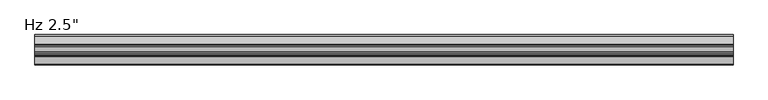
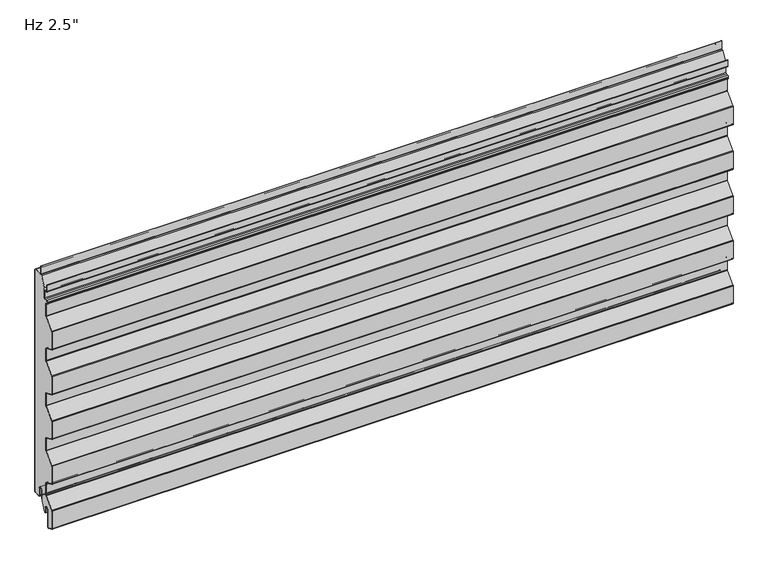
"""IFC4 building model written with IfcOpenShell, lengths in millimetres: plate geometry."""

import ifcopenshell
import ifcopenshell.guid

model = None  # the IFC model being written
_history = None  # IfcOwnerHistory: only IFC2X3 demands one
_inside = {}  # id of a spatial element -> (the spatial element, [elements in it])
_under = {}  # id of a project, library or spatial element -> (it, [spatial elements below it])
_declared = {}  # id of a project -> (the project, [libraries it declares])
_typed = {}  # id of a type object -> (the type object, [elements of that type])
_made_of = {}  # id of a material, layer set ... -> (it, [elements and type objects made of it])


def new_model(schema):
    """Start an empty IFC model of exactly this schema.

    Asked for "IFC4X3", IfcOpenShell would pick the latest addendum, in which some entities
    have other attributes; the version numbers below select the first issue.
    IFC2X3 requires an IfcOwnerHistory on every rooted entity: one is made here for all.
    """
    global model, _history
    if schema == "IFC4X3":
        model = ifcopenshell.file(schema_version=(4, 3, 0, 0))
    else:
        model = ifcopenshell.file(schema=schema)
    _inside.clear()
    _under.clear()
    _declared.clear()
    _typed.clear()
    _made_of.clear()
    _history = None
    if model.schema == "IFC2X3":
        org = make("IfcOrganization", Name="unknown")
        user = make(
            "IfcPersonAndOrganization",
            ThePerson=make("IfcPerson", FamilyName="unknown"),
            TheOrganization=org,
        )
        app = make(
            "IfcApplication",
            ApplicationDeveloper=org,
            Version="unknown",
            ApplicationFullName="unknown",
            ApplicationIdentifier="unknown",
        )
        _history = make(
            "IfcOwnerHistory",
            OwningUser=user,
            OwningApplication=app,
            ChangeAction="ADDED",
            CreationDate=0,
        )
    return model


def make(cls, **values):
    """One entity of the class cls with the attributes given. An attribute that is None is left unset."""
    return model.create_entity(
        cls, **{name: value for name, value in values.items() if value is not None}
    )


def rooted(cls, **values):
    """An entity with a GlobalId (a new one), such as an element, a storey or a relation."""
    return make(cls, GlobalId=ifcopenshell.guid.new(), OwnerHistory=_history, **values)


def si_unit(unit_type, name, prefix=None):
    """IfcSIUnit, for example si_unit("LENGTHUNIT", "METRE", prefix="MILLI")."""
    return make("IfcSIUnit", UnitType=unit_type, Prefix=prefix, Name=name)


def assignment(units):
    """IfcUnitAssignment: the units of a project."""
    return None if units is None else make("IfcUnitAssignment", Units=units)


def point(xyz):
    """IfcCartesianPoint."""
    return None if xyz is None else make("IfcCartesianPoint", Coordinates=xyz)


def direction(xyz):
    """IfcDirection."""
    return None if xyz is None else make("IfcDirection", DirectionRatios=xyz)


def frame(location, z_axis=None, x_axis=None):
    """IfcAxis2Placement3D, a coordinate frame: its origin and axes. An axis left out is left unset."""
    return make(
        "IfcAxis2Placement3D",
        Location=point(location),
        Axis=direction(z_axis),
        RefDirection=direction(x_axis),
    )


def frame_2d(location, x_axis=None):
    """IfcAxis2Placement2D, a coordinate frame in the plane: its origin and x axis."""
    return make(
        "IfcAxis2Placement2D", Location=point(location), RefDirection=direction(x_axis)
    )


def origin():
    """The frame at (0, 0, 0) with its axes left unset."""
    return frame((0.0, 0.0, 0.0))


def place(relative_to, where):
    """IfcLocalPlacement: puts the frame where relative to a parent placement (None: the world)."""
    return make(
        "IfcLocalPlacement", PlacementRelTo=relative_to, RelativePlacement=where
    )


def context(
    kind, dimensions, precision=None, world=None, true_north=None, identifier=None
):
    """IfcGeometricRepresentationContext, for example the 3D "Model" context."""
    return make(
        "IfcGeometricRepresentationContext",
        ContextIdentifier=identifier,
        ContextType=kind,
        CoordinateSpaceDimension=dimensions,
        Precision=precision,
        WorldCoordinateSystem=world,
        TrueNorth=true_north,
    )


def project(units=None, contexts=None):
    """IfcProject with its units and contexts."""
    return rooted(
        "IfcProject",
        Name="project",
        RepresentationContexts=contexts,
        UnitsInContext=assignment(units),
    )


def spatial(cls, under=None, at=None, **own):
    """A site, building, storey or space (cls), placed at a placement, below another one or the project."""
    s = rooted(cls, ObjectPlacement=at, **own)
    if under is not None:
        _under.setdefault(under.id(), (under, []))[1].append(s)
    return s


def polyline(points):
    """IfcPolyline through the points."""
    return make("IfcPolyline", Points=[point(p) for p in points])


def circle_curve(where, radius):
    """IfcCircle in the frame where."""
    return make("IfcCircle", Position=where, Radius=radius)


def trimmed(basis, trim1, trim2, sense, master):
    """IfcTrimmedCurve: the piece of a basis curve between two trims."""
    return make(
        "IfcTrimmedCurve",
        BasisCurve=basis,
        Trim1=trim1,
        Trim2=trim2,
        SenseAgreement=sense,
        MasterRepresentation=master,
    )


def segment(curve, same_sense, transition):
    """IfcCompositeCurveSegment."""
    return make(
        "IfcCompositeCurveSegment",
        Transition=transition,
        SameSense=same_sense,
        ParentCurve=curve,
    )


def composite_curve(segments, self_intersect=None):
    """IfcCompositeCurve: segments joined end to end."""
    return make("IfcCompositeCurve", Segments=segments, SelfIntersect=self_intersect)


def outline(outer, holes=None, kind="AREA"):
    """IfcArbitraryClosedProfileDef: a profile drawn as a closed curve; with holes, ...WithVoids."""
    if holes is None:
        return make("IfcArbitraryClosedProfileDef", ProfileType=kind, OuterCurve=outer)
    return make(
        "IfcArbitraryProfileDefWithVoids",
        ProfileType=kind,
        OuterCurve=outer,
        InnerCurves=holes,
    )


def extrude(swept, where, along, depth):
    """IfcExtrudedAreaSolid: the profile swept, set in the frame where, extruded along a direction by depth."""
    return make(
        "IfcExtrudedAreaSolid",
        SweptArea=swept,
        Position=where,
        ExtrudedDirection=direction(along),
        Depth=depth,
    )


def shape(context_of_items, identifier, shape_type, items):
    """IfcShapeRepresentation: the items that make up one representation, for example the "Body"."""
    return make(
        "IfcShapeRepresentation",
        ContextOfItems=context_of_items,
        RepresentationIdentifier=identifier,
        RepresentationType=shape_type,
        Items=items,
    )


def source(mapping_origin, context_of_items, identifier, shape_type, items):
    """IfcRepresentationMap: a shape defined once, which mapped items show again and again."""
    return make(
        "IfcRepresentationMap",
        MappingOrigin=mapping_origin,
        MappedRepresentation=shape(context_of_items, identifier, shape_type, items),
    )


def transform(
    local_origin,
    x_axis=None,
    y_axis=None,
    z_axis=None,
    scale=None,
    scale2=None,
    scale3=None,
    uniform=True,
):
    """IfcCartesianTransformationOperator3D, or its non-uniform kind. x_axis, y_axis, z_axis: its Axis1, 2, 3."""
    if uniform:
        return make(
            "IfcCartesianTransformationOperator3D",
            Axis1=direction(x_axis),
            Axis2=direction(y_axis),
            LocalOrigin=point(local_origin),
            Scale=scale,
            Axis3=direction(z_axis),
        )
    return make(
        "IfcCartesianTransformationOperator3DnonUniform",
        Axis1=direction(x_axis),
        Axis2=direction(y_axis),
        LocalOrigin=point(local_origin),
        Scale=scale,
        Axis3=direction(z_axis),
        Scale2=scale2,
        Scale3=scale3,
    )


def mapped(mapping_source, mapping_target):
    """IfcMappedItem: shows the shape of a source again, moved by a transform."""
    return make(
        "IfcMappedItem", MappingSource=mapping_source, MappingTarget=mapping_target
    )


def made_of(thing, what):
    """Note that an element or type object is made of a material, layer set ...; save() writes the relation."""
    if what is not None:
        _made_of.setdefault(what.id(), (what, []))[1].append(thing)
    return thing


def element(
    cls,
    number,
    at=None,
    inside=None,
    cuts=None,
    type_object=None,
    material=None,
    context=None,
    identifier="Body",
    shape_type=None,
    held_by="IfcProductDefinitionShape",
    body=None,
    shapes=None,
    **own,
):
    """One element of the class cls, such as IfcWall. Its Tag is "e" and its number.

    at: its placement. inside: the storey or other place that contains it. cuts: it is an
    opening in that element (IfcRelVoidsElement). A single representation is given by context,
    identifier, shape_type and body (its items); several are given by shapes. held_by: the class
    of the entity that holds the representations. save() writes the other relations.
    """
    e = rooted(cls, Tag="e%d" % number, ObjectPlacement=at, **own)
    if body is not None:
        shapes = [shape(context, identifier, shape_type, body)]
    if shapes is not None:
        e.Representation = make(held_by, Representations=shapes)
    if inside is not None:
        _inside.setdefault(inside.id(), (inside, []))[1].append(e)
    if cuts is not None:
        rooted(
            "IfcRelVoidsElement", RelatingBuildingElement=cuts, RelatedOpeningElement=e
        )
    if type_object is not None:
        _typed.setdefault(type_object.id(), (type_object, []))[1].append(e)
    return made_of(e, material)


def aggregate(whole, parts):
    """IfcRelAggregates: a whole, such as a stair, and the parts it consists of."""
    return rooted("IfcRelAggregates", RelatingObject=whole, RelatedObjects=parts)


def save(model, path):
    """Write the relations noted so far, then the file.

    IfcRelAggregates (storeys below a building ...), IfcRelContainedInSpatialStructure (elements
    in a storey), IfcRelDefinesByType, IfcRelAssociatesMaterial and IfcRelDeclares: one each for
    every whole, place, type object, material and project.
    """
    for whole, parts in _under.values():
        aggregate(whole, parts)
    for where, things in _inside.values():
        rooted(
            "IfcRelContainedInSpatialStructure",
            RelatedElements=things,
            RelatingStructure=where,
        )
    for kind, things in _typed.values():
        rooted("IfcRelDefinesByType", RelatedObjects=things, RelatingType=kind)
    for what, things in _made_of.values():
        rooted("IfcRelAssociatesMaterial", RelatedObjects=things, RelatingMaterial=what)
    for by, libraries in _declared.values():
        rooted("IfcRelDeclares", RelatingContext=by, RelatedDefinitions=libraries)
    model.write(path)


def plate_f2263944(model_context):
    return source(origin(), model_context, "Body", "SweptSolid", [
        extrude(outline(composite_curve([segment(polyline([(-26.4011912, 19.05), (-26.4011912, -3.1976612), (-36.533822, -23.01875), (-38.6886912, -23.01875), (-38.6886912, -11.90625)]), True, "CONTINUOUS"), segment(trimmed(circle_curve(frame_2d((-43.6574412, -11.90625)), 4.96875), [point((-38.6886912, -11.90625))], [point((-48.6261912, -11.90625))], True, "CARTESIAN"), True, "CONTINUOUS"), segment(polyline([(-48.6261912, -11.90625), (-48.6261912, -48.8194049)]), True, "CONTINUOUS"), segment(trimmed(circle_curve(frame_2d((-50.0074412, -48.8194049)), 1.38125), [point((-48.6261912, -48.8194049))], [point((-50.5666208, -50.0824052))], False, "CARTESIAN"), True, "CONTINUOUS"), segment(polyline([(-50.5666208, -50.0824052), (-61.6779296, -45.1629946)]), True, "CONTINUOUS"), segment(trimmed(circle_curve(frame_2d((-61.11875, -43.8999943)), 1.38125), [point((-61.6779296, -45.1629946))], [point((-62.5, -43.8999943))], False, "CARTESIAN"), True, "CONTINUOUS"), segment(polyline([(-62.5, -43.8999943), (-62.5, -5.0536946)]), True, "CONTINUOUS"), segment(trimmed(circle_curve(frame_2d((-60.4012, -5.0536946)), 2.0988), [point((-62.5, -5.0536946))], [point((-61.9092077, -3.5939431))], False, "CARTESIAN"), True, "CONTINUOUS"), segment(polyline([(-61.9092077, -3.5939431), (-41.7145567, 17.2682996)]), True, "CONTINUOUS"), segment(trimmed(circle_curve(frame_2d((-43.5737, 19.0679503)), 2.5875), [point((-41.7145567, 17.2682996))], [point((-40.9862, 19.0679503))], True, "CARTESIAN"), True, "CONTINUOUS"), segment(polyline([(-40.9862, 19.0679503), (-40.9862, 45.5917981)]), True, "CONTINUOUS"), segment(trimmed(circle_curve(frame_2d((-43.5737, 45.5917981)), 2.5875), [point((-40.9862, 45.5917981))], [point((-42.5261871, 47.9577806))], True, "CARTESIAN"), True, "CONTINUOUS"), segment(polyline([(-42.5261871, 47.9577806), (-61.6779296, 56.4370054)]), True, "CONTINUOUS"), segment(trimmed(circle_curve(frame_2d((-61.11875, 57.7000057)), 1.38125), [point((-61.6779296, 56.4370054))], [point((-62.5, 57.7000057))], False, "CARTESIAN"), True, "CONTINUOUS"), segment(polyline([(-62.5, 57.7000057), (-62.5, 96.8367131)]), True, "CONTINUOUS"), segment(trimmed(circle_curve(frame_2d((-61.11875, 96.8367131)), 1.38125), [point((-62.5, 96.8367131))], [point((-62.1111912, 97.7973962))], False, "CARTESIAN"), True, "CONTINUOUS"), segment(polyline([(-62.1111912, 97.7973962), (-41.7145567, 118.8682996)]), True, "CONTINUOUS"), segment(trimmed(circle_curve(frame_2d((-43.5737, 120.6679503)), 2.5875), [point((-41.7145567, 118.8682996))], [point((-40.9862, 120.6679503))], True, "CARTESIAN"), True, "CONTINUOUS"), segment(polyline([(-40.9862, 120.6679503), (-40.9862, 147.1917981)]), True, "CONTINUOUS"), segment(trimmed(circle_curve(frame_2d((-43.5737, 147.1917981)), 2.5875), [point((-40.9862, 147.1917981))], [point((-42.5261871, 149.5577806))], True, "CARTESIAN"), True, "CONTINUOUS"), segment(polyline([(-42.5261871, 149.5577806), (-61.6779296, 158.0370054)]), True, "CONTINUOUS"), segment(trimmed(circle_curve(frame_2d((-61.11875, 159.3000057)), 1.38125), [point((-61.6779296, 158.0370054))], [point((-62.5, 159.3000057))], False, "CARTESIAN"), True, "CONTINUOUS"), segment(polyline([(-62.5, 159.3000057), (-62.5, 198.4367131)]), True, "CONTINUOUS"), segment(trimmed(circle_curve(frame_2d((-61.11875, 198.4367131)), 1.38125), [point((-62.5, 198.4367131))], [point((-62.1111912, 199.3973962))], False, "CARTESIAN"), True, "CONTINUOUS"), segment(polyline([(-62.1111912, 199.3973962), (-41.7145567, 220.4682996)]), True, "CONTINUOUS"), segment(trimmed(circle_curve(frame_2d((-43.5737, 222.2679503)), 2.5875), [point((-41.7145567, 220.4682996))], [point((-40.9862, 222.2679503))], True, "CARTESIAN"), True, "CONTINUOUS"), segment(polyline([(-40.9862, 222.2679503), (-40.9862, 248.7917981)]), True, "CONTINUOUS"), segment(trimmed(circle_curve(frame_2d((-43.5737, 248.7917981)), 2.5875), [point((-40.9862, 248.7917981))], [point((-42.5261871, 251.1577806))], True, "CARTESIAN"), True, "CONTINUOUS"), segment(polyline([(-42.5261871, 251.1577806), (-61.6779296, 259.6370054)]), True, "CONTINUOUS"), segment(trimmed(circle_curve(frame_2d((-61.11875, 260.9000057)), 1.38125), [point((-61.6779296, 259.6370054))], [point((-62.5, 260.9000057))], False, "CARTESIAN"), True, "CONTINUOUS"), segment(polyline([(-62.5, 260.9000057), (-62.5, 300.0367131)]), True, "CONTINUOUS"), segment(trimmed(circle_curve(frame_2d((-61.11875, 300.0367131)), 1.38125), [point((-62.5, 300.0367131))], [point((-62.1111912, 300.9973962))], False, "CARTESIAN"), True, "CONTINUOUS"), segment(polyline([(-62.1111912, 300.9973962), (-41.7145567, 322.0682996)]), True, "CONTINUOUS"), segment(trimmed(circle_curve(frame_2d((-43.5737, 323.8679503)), 2.5875), [point((-41.7145567, 322.0682996))], [point((-40.9862, 323.8679503))], True, "CARTESIAN"), True, "CONTINUOUS"), segment(polyline([(-40.9862, 323.8679503), (-40.9862, 350.3917981)]), True, "CONTINUOUS"), segment(trimmed(circle_curve(frame_2d((-43.5737, 350.3917981)), 2.5875), [point((-40.9862, 350.3917981))], [point((-42.5261871, 352.7577806))], True, "CARTESIAN"), True, "CONTINUOUS"), segment(polyline([(-42.5261871, 352.7577806), (-61.6779296, 361.2370054)]), True, "CONTINUOUS"), segment(trimmed(circle_curve(frame_2d((-61.11875, 362.5000057)), 1.38125), [point((-61.6779296, 361.2370054))], [point((-62.5, 362.5000057))], False, "CARTESIAN"), True, "CONTINUOUS"), segment(polyline([(-62.5, 362.5000057), (-62.5, 401.6367131)]), True, "CONTINUOUS"), segment(trimmed(circle_curve(frame_2d((-61.11875, 401.6367131)), 1.38125), [point((-62.5, 401.6367131))], [point((-62.1111912, 402.5973962))], False, "CARTESIAN"), True, "CONTINUOUS"), segment(polyline([(-62.1111912, 402.5973962), (-41.7145567, 423.6682996)]), True, "CONTINUOUS"), segment(trimmed(circle_curve(frame_2d((-43.5737, 425.4679503)), 2.5875), [point((-41.7145567, 423.6682996))], [point((-40.9862, 425.4679503))], True, "CARTESIAN"), True, "CONTINUOUS"), segment(polyline([(-40.9862, 425.4679503), (-40.9862, 451.9917981)]), True, "CONTINUOUS"), segment(trimmed(circle_curve(frame_2d((-43.5737, 451.9917981)), 2.5875), [point((-40.9862, 451.9917981))], [point((-42.5261871, 454.3577806))], True, "CARTESIAN"), True, "CONTINUOUS"), segment(polyline([(-42.5261871, 454.3577806), (-44.2166208, 455.1062016)]), True, "CONTINUOUS"), segment(trimmed(circle_curve(frame_2d((-43.6574412, 456.3692019)), 1.38125), [point((-44.2166208, 455.1062016))], [point((-45.0386912, 456.3692019))], False, "CARTESIAN"), True, "CONTINUOUS"), segment(polyline([(-45.0386912, 456.3692019), (-45.0386912, 458.6967085)]), True, "CONTINUOUS"), segment(trimmed(circle_curve(frame_2d((-43.6574412, 458.6967085)), 1.38125), [point((-45.0386912, 458.6967085))], [point((-43.7297302, 460.0760655))], False, "CARTESIAN"), True, "CONTINUOUS"), segment(polyline([(-43.7297302, 460.0760655), (-37.9657719, 460.3781418)]), True, "CONTINUOUS"), segment(trimmed(circle_curve(frame_2d((-38.1011912, 462.9620957)), 2.5875), [point((-37.9657719, 460.3781418))], [point((-35.5136912, 462.9620957))], True, "CARTESIAN"), True, "CONTINUOUS"), segment(polyline([(-35.5136912, 462.9620957), (-35.5136912, 485.3892934), (-24.8719682, 506.20625), (-2.3824412, 506.20625)]), True, "CONTINUOUS"), segment(trimmed(circle_curve(frame_2d((-2.3824412, 504.825)), 1.38125), [point((-2.3824412, 506.20625))], [point((-1.0011912, 504.825))], False, "CARTESIAN"), True, "CONTINUOUS"), segment(polyline([(-1.0011912, 504.825), (-1.0011912, 3.175)]), True, "CONTINUOUS"), segment(trimmed(circle_curve(frame_2d((-2.3824412, 3.175)), 1.38125), [point((-1.0011912, 3.175))], [point((-2.3824412, 1.79375))], False, "CARTESIAN"), True, "CONTINUOUS"), segment(polyline([(-2.3824412, 1.79375), (-15.0824412, 1.79375)]), True, "CONTINUOUS"), segment(trimmed(circle_curve(frame_2d((-15.0824412, 3.175)), 1.38125), [point((-15.0824412, 1.79375))], [point((-16.4636912, 3.175))], False, "CARTESIAN"), True, "CONTINUOUS"), segment(polyline([(-16.4636912, 3.175), (-16.4636912, 19.05)]), True, "CONTINUOUS"), segment(trimmed(circle_curve(frame_2d((-21.4324412, 19.05)), 4.96875), [point((-16.4636912, 19.05))], [point((-26.4011912, 19.05))], True, "CARTESIAN"), True, "CONTINUOUS")], self_intersect=False)), frame((-730.0, 0.0, 0.0), z_axis=(1.0, 0.0, 0.0), x_axis=(0.0, 1.0, 0.0)), (0.0, 0.0, 1.0), 1460.0),
        extrude(outline(composite_curve([segment(polyline([(-25.4, 0.79375), (-26.4, 0.79375), (-26.4, 19.05)]), True, "CONTINUOUS"), segment(trimmed(circle_curve(frame_2d((-21.43125, 19.05)), 4.96875), [point((-26.4, 19.05))], [point((-16.4625, 19.05))], False, "CARTESIAN"), True, "CONTINUOUS"), segment(polyline([(-16.4625, 19.05), (-16.4625, 3.175)]), True, "CONTINUOUS"), segment(trimmed(circle_curve(frame_2d((-15.08125, 3.175)), 1.38125), [point((-16.4625, 3.175))], [point((-15.08125, 1.79375))], True, "CARTESIAN"), True, "CONTINUOUS"), segment(polyline([(-15.08125, 1.79375), (-2.38125, 1.79375)]), True, "CONTINUOUS"), segment(trimmed(circle_curve(frame_2d((-2.38125, 3.175)), 1.38125), [point((-2.38125, 1.79375))], [point((-1.0, 3.175))], True, "CARTESIAN"), True, "CONTINUOUS"), segment(polyline([(-1.0, 3.175), (-1.0, 504.825)]), True, "CONTINUOUS"), segment(trimmed(circle_curve(frame_2d((-2.38125, 504.825)), 1.38125), [point((-1.0, 504.825))], [point((-2.38125, 506.20625))], True, "CARTESIAN"), True, "CONTINUOUS"), segment(polyline([(-2.38125, 506.20625), (-19.446875, 506.20625)]), True, "CONTINUOUS"), segment(trimmed(circle_curve(frame_2d((-19.446875, 508.79375)), 2.5875), [point((-19.446875, 506.20625))], [point((-22.034375, 508.79375))], False, "CARTESIAN"), True, "CONTINUOUS"), segment(polyline([(-22.034375, 508.79375), (-22.034375, 526.25625), (-21.034375, 526.25625), (-21.034375, 508.79375)]), True, "CONTINUOUS"), segment(trimmed(circle_curve(frame_2d((-19.446875, 508.79375)), 1.5875), [point((-21.034375, 508.79375))], [point((-19.446875, 507.20625))], True, "CARTESIAN"), True, "CONTINUOUS"), segment(polyline([(-19.446875, 507.20625), (-2.38125, 507.20625)]), True, "CONTINUOUS"), segment(trimmed(circle_curve(frame_2d((-2.38125, 504.825)), 2.38125), [point((-2.38125, 507.20625))], [point((0.0, 504.825))], False, "CARTESIAN"), True, "CONTINUOUS"), segment(polyline([(0.0, 504.825), (0.0, 3.175)]), True, "CONTINUOUS"), segment(trimmed(circle_curve(frame_2d((-2.38125, 3.175)), 2.38125), [point((0.0, 3.175))], [point((-2.38125, 0.79375))], False, "CARTESIAN"), True, "CONTINUOUS"), segment(polyline([(-2.38125, 0.79375), (-15.08125, 0.79375)]), True, "CONTINUOUS"), segment(trimmed(circle_curve(frame_2d((-15.08125, 3.175)), 2.38125), [point((-15.08125, 0.79375))], [point((-17.4625, 3.175))], False, "CARTESIAN"), True, "CONTINUOUS"), segment(polyline([(-17.4625, 3.175), (-17.4625, 19.05)]), True, "CONTINUOUS"), segment(trimmed(circle_curve(frame_2d((-21.43125, 19.05)), 3.96875), [point((-17.4625, 19.05))], [point((-25.4, 19.05))], True, "CARTESIAN"), True, "CONTINUOUS"), segment(polyline([(-25.4, 19.05), (-25.4, 0.79375)]), True, "CONTINUOUS")], self_intersect=False)), frame((-730.0, 0.0, 0.0), z_axis=(1.0, 0.0, 0.0), x_axis=(0.0, 1.0, 0.0)), (0.0, 0.0, 1.0), 1460.0),
        extrude(outline(composite_curve([segment(polyline([(-47.6261912, -11.90625), (-47.6261912, -48.8194049)]), True, "CONTINUOUS"), segment(trimmed(circle_curve(frame_2d((-50.0074412, -48.8194049)), 2.38125), [point((-47.6261912, -48.8194049))], [point((-50.9714567, -50.9967946))], False, "CARTESIAN"), True, "CONTINUOUS"), segment(polyline([(-50.9714567, -50.9967946), (-62.0827655, -46.0773839)]), True, "CONTINUOUS"), segment(trimmed(circle_curve(frame_2d((-61.11875, -43.8999943)), 2.38125), [point((-62.0827655, -46.0773839))], [point((-63.5, -43.8999943))], False, "CARTESIAN"), True, "CONTINUOUS"), segment(polyline([(-63.5, -43.8999943), (-63.5, -5.0536946)]), True, "CONTINUOUS"), segment(trimmed(circle_curve(frame_2d((-60.4012, -5.0536946)), 3.0988), [point((-63.5, -5.0536946))], [point((-62.6277172, -2.8984259))], False, "CARTESIAN"), True, "CONTINUOUS"), segment(polyline([(-62.6277172, -2.8984259), (-42.4330662, 17.9638168)]), True, "CONTINUOUS"), segment(trimmed(circle_curve(frame_2d((-43.5737, 19.0679503)), 1.5875), [point((-42.4330662, 17.9638168))], [point((-41.9862, 19.0679503))], True, "CARTESIAN"), True, "CONTINUOUS"), segment(polyline([(-41.9862, 19.0679503), (-41.9862, 45.5917981)]), True, "CONTINUOUS"), segment(trimmed(circle_curve(frame_2d((-43.5737, 45.5917981)), 1.5875), [point((-41.9862, 45.5917981))], [point((-42.931023, 47.0433912))], True, "CARTESIAN"), True, "CONTINUOUS"), segment(polyline([(-42.931023, 47.0433912), (-62.0827655, 55.5226161)]), True, "CONTINUOUS"), segment(trimmed(circle_curve(frame_2d((-61.11875, 57.7000057)), 2.38125), [point((-62.0827655, 55.5226161))], [point((-63.5, 57.7000057))], False, "CARTESIAN"), True, "CONTINUOUS"), segment(polyline([(-63.5, 57.7000057), (-63.5, 96.8367131)]), True, "CONTINUOUS"), segment(trimmed(circle_curve(frame_2d((-61.11875, 96.8367131)), 2.38125), [point((-63.5, 96.8367131))], [point((-62.8297007, 98.4929134))], False, "CARTESIAN"), True, "CONTINUOUS"), segment(polyline([(-62.8297007, 98.4929134), (-42.4330662, 119.5638168)]), True, "CONTINUOUS"), segment(trimmed(circle_curve(frame_2d((-43.5737, 120.6679503)), 1.5875), [point((-42.4330662, 119.5638168))], [point((-41.9862, 120.6679503))], True, "CARTESIAN"), True, "CONTINUOUS"), segment(polyline([(-41.9862, 120.6679503), (-41.9862, 147.1917981)]), True, "CONTINUOUS"), segment(trimmed(circle_curve(frame_2d((-43.5737, 147.1917981)), 1.5875), [point((-41.9862, 147.1917981))], [point((-42.931023, 148.6433912))], True, "CARTESIAN"), True, "CONTINUOUS"), segment(polyline([(-42.931023, 148.6433912), (-62.0827655, 157.1226161)]), True, "CONTINUOUS"), segment(trimmed(circle_curve(frame_2d((-61.11875, 159.3000057)), 2.38125), [point((-62.0827655, 157.1226161))], [point((-63.5, 159.3000057))], False, "CARTESIAN"), True, "CONTINUOUS"), segment(polyline([(-63.5, 159.3000057), (-63.5, 198.4367131)]), True, "CONTINUOUS"), segment(trimmed(circle_curve(frame_2d((-61.11875, 198.4367131)), 2.38125), [point((-63.5, 198.4367131))], [point((-62.8297007, 200.0929134))], False, "CARTESIAN"), True, "CONTINUOUS"), segment(polyline([(-62.8297007, 200.0929134), (-42.4330662, 221.1638168)]), True, "CONTINUOUS"), segment(trimmed(circle_curve(frame_2d((-43.5737, 222.2679503)), 1.5875), [point((-42.4330662, 221.1638168))], [point((-41.9862, 222.2679503))], True, "CARTESIAN"), True, "CONTINUOUS"), segment(polyline([(-41.9862, 222.2679503), (-41.9862, 248.7917981)]), True, "CONTINUOUS"), segment(trimmed(circle_curve(frame_2d((-43.5737, 248.7917981)), 1.5875), [point((-41.9862, 248.7917981))], [point((-42.931023, 250.2433912))], True, "CARTESIAN"), True, "CONTINUOUS"), segment(polyline([(-42.931023, 250.2433912), (-62.0827655, 258.7226161)]), True, "CONTINUOUS"), segment(trimmed(circle_curve(frame_2d((-61.11875, 260.9000057)), 2.38125), [point((-62.0827655, 258.7226161))], [point((-63.5, 260.9000057))], False, "CARTESIAN"), True, "CONTINUOUS"), segment(polyline([(-63.5, 260.9000057), (-63.5, 300.0367131)]), True, "CONTINUOUS"), segment(trimmed(circle_curve(frame_2d((-61.11875, 300.0367131)), 2.38125), [point((-63.5, 300.0367131))], [point((-62.8297007, 301.6929134))], False, "CARTESIAN"), True, "CONTINUOUS"), segment(polyline([(-62.8297007, 301.6929134), (-42.4330662, 322.7638168)]), True, "CONTINUOUS"), segment(trimmed(circle_curve(frame_2d((-43.5737, 323.8679503)), 1.5875), [point((-42.4330662, 322.7638168))], [point((-41.9862, 323.8679503))], True, "CARTESIAN"), True, "CONTINUOUS"), segment(polyline([(-41.9862, 323.8679503), (-41.9862, 350.3917981)]), True, "CONTINUOUS"), segment(trimmed(circle_curve(frame_2d((-43.5737, 350.3917981)), 1.5875), [point((-41.9862, 350.3917981))], [point((-42.931023, 351.8433912))], True, "CARTESIAN"), True, "CONTINUOUS"), segment(polyline([(-42.931023, 351.8433912), (-62.0827655, 360.3226161)]), True, "CONTINUOUS"), segment(trimmed(circle_curve(frame_2d((-61.11875, 362.5000057)), 2.38125), [point((-62.0827655, 360.3226161))], [point((-63.5, 362.5000057))], False, "CARTESIAN"), True, "CONTINUOUS"), segment(polyline([(-63.5, 362.5000057), (-63.5, 401.6367131)]), True, "CONTINUOUS"), segment(trimmed(circle_curve(frame_2d((-61.11875, 401.6367131)), 2.38125), [point((-63.5, 401.6367131))], [point((-62.8297007, 403.2929134))], False, "CARTESIAN"), True, "CONTINUOUS"), segment(polyline([(-62.8297007, 403.2929134), (-42.4330662, 424.3638168)]), True, "CONTINUOUS"), segment(trimmed(circle_curve(frame_2d((-43.5737, 425.4679503)), 1.5875), [point((-42.4330662, 424.3638168))], [point((-41.9862, 425.4679503))], True, "CARTESIAN"), True, "CONTINUOUS"), segment(polyline([(-41.9862, 425.4679503), (-41.9862, 451.9917981)]), True, "CONTINUOUS"), segment(trimmed(circle_curve(frame_2d((-43.5737, 451.9917981)), 1.5875), [point((-41.9862, 451.9917981))], [point((-42.931023, 453.4433912))], True, "CARTESIAN"), True, "CONTINUOUS"), segment(polyline([(-42.931023, 453.4433912), (-44.6214567, 454.1918123)]), True, "CONTINUOUS"), segment(trimmed(circle_curve(frame_2d((-43.6574412, 456.3692019)), 2.38125), [point((-44.6214567, 454.1918123))], [point((-46.0386912, 456.3692019))], False, "CARTESIAN"), True, "CONTINUOUS"), segment(polyline([(-46.0386912, 456.3692019), (-46.0386912, 458.6967085)]), True, "CONTINUOUS"), segment(trimmed(circle_curve(frame_2d((-43.6574412, 458.6967085)), 2.38125), [point((-46.0386912, 458.6967085))], [point((-43.7820662, 461.0746951))], False, "CARTESIAN"), True, "CONTINUOUS"), segment(polyline([(-43.7820662, 461.0746951), (-38.0181078, 461.3767713)]), True, "CONTINUOUS"), segment(trimmed(circle_curve(frame_2d((-38.1011912, 462.9620957)), 1.5875), [point((-38.0181078, 461.3767713))], [point((-36.5136912, 462.9620957))], True, "CARTESIAN"), True, "CONTINUOUS"), segment(polyline([(-36.5136912, 462.9620957), (-36.5136912, 477.8375)]), True, "CONTINUOUS"), segment(trimmed(circle_curve(frame_2d((-38.1011912, 477.8375)), 1.5875), [point((-36.5136912, 477.8375))], [point((-38.1011912, 479.425))], True, "CARTESIAN"), True, "CONTINUOUS"), segment(polyline([(-38.1011912, 479.425), (-41.6730662, 479.425)]), True, "CONTINUOUS"), segment(trimmed(circle_curve(frame_2d((-41.6730662, 481.80625)), 2.38125), [point((-41.6730662, 479.425))], [point((-44.0543162, 481.80625))], False, "CARTESIAN"), True, "CONTINUOUS"), segment(polyline([(-44.0543162, 481.80625), (-44.0543162, 496.09375), (-43.0543162, 496.09375), (-43.0543162, 481.80625)]), True, "CONTINUOUS"), segment(trimmed(circle_curve(frame_2d((-41.6730662, 481.80625)), 1.38125), [point((-43.0543162, 481.80625))], [point((-41.6730662, 480.425))], True, "CARTESIAN"), True, "CONTINUOUS"), segment(polyline([(-41.6730662, 480.425), (-38.1011912, 480.425)]), True, "CONTINUOUS"), segment(trimmed(circle_curve(frame_2d((-38.1011912, 477.8375)), 2.5875), [point((-38.1011912, 480.425))], [point((-35.5136912, 477.8375))], False, "CARTESIAN"), True, "CONTINUOUS"), segment(polyline([(-35.5136912, 477.8375), (-35.5136912, 462.9620957)]), True, "CONTINUOUS"), segment(trimmed(circle_curve(frame_2d((-38.1011912, 462.9620957)), 2.5875), [point((-35.5136912, 462.9620957))], [point((-37.9657719, 460.3781418))], False, "CARTESIAN"), True, "CONTINUOUS"), segment(polyline([(-37.9657719, 460.3781418), (-43.7297302, 460.0760655)]), True, "CONTINUOUS"), segment(trimmed(circle_curve(frame_2d((-43.6574412, 458.6967085)), 1.38125), [point((-43.7297302, 460.0760655))], [point((-45.0386912, 458.6967085))], True, "CARTESIAN"), True, "CONTINUOUS"), segment(polyline([(-45.0386912, 458.6967085), (-45.0386912, 456.3692019)]), True, "CONTINUOUS"), segment(trimmed(circle_curve(frame_2d((-43.6574412, 456.3692019)), 1.38125), [point((-45.0386912, 456.3692019))], [point((-44.2166208, 455.1062016))], True, "CARTESIAN"), True, "CONTINUOUS"), segment(polyline([(-44.2166208, 455.1062016), (-42.5261871, 454.3577806)]), True, "CONTINUOUS"), segment(trimmed(circle_curve(frame_2d((-43.5737, 451.9917981)), 2.5875), [point((-42.5261871, 454.3577806))], [point((-40.9862, 451.9917981))], False, "CARTESIAN"), True, "CONTINUOUS"), segment(polyline([(-40.9862, 451.9917981), (-40.9862, 425.4679503)]), True, "CONTINUOUS"), segment(trimmed(circle_curve(frame_2d((-43.5737, 425.4679503)), 2.5875), [point((-40.9862, 425.4679503))], [point((-41.7145567, 423.6682996))], False, "CARTESIAN"), True, "CONTINUOUS"), segment(polyline([(-41.7145567, 423.6682996), (-62.1111912, 402.5973962)]), True, "CONTINUOUS"), segment(trimmed(circle_curve(frame_2d((-61.11875, 401.6367131)), 1.38125), [point((-62.1111912, 402.5973962))], [point((-62.5, 401.6367131))], True, "CARTESIAN"), True, "CONTINUOUS"), segment(polyline([(-62.5, 401.6367131), (-62.5, 362.5000057)]), True, "CONTINUOUS"), segment(trimmed(circle_curve(frame_2d((-61.11875, 362.5000057)), 1.38125), [point((-62.5, 362.5000057))], [point((-61.6779296, 361.2370054))], True, "CARTESIAN"), True, "CONTINUOUS"), segment(polyline([(-61.6779296, 361.2370054), (-42.5261871, 352.7577806)]), True, "CONTINUOUS"), segment(trimmed(circle_curve(frame_2d((-43.5737, 350.3917981)), 2.5875), [point((-42.5261871, 352.7577806))], [point((-40.9862, 350.3917981))], False, "CARTESIAN"), True, "CONTINUOUS"), segment(polyline([(-40.9862, 350.3917981), (-40.9862, 323.8679503)]), True, "CONTINUOUS"), segment(trimmed(circle_curve(frame_2d((-43.5737, 323.8679503)), 2.5875), [point((-40.9862, 323.8679503))], [point((-41.7145567, 322.0682996))], False, "CARTESIAN"), True, "CONTINUOUS"), segment(polyline([(-41.7145567, 322.0682996), (-62.1111912, 300.9973962)]), True, "CONTINUOUS"), segment(trimmed(circle_curve(frame_2d((-61.11875, 300.0367131)), 1.38125), [point((-62.1111912, 300.9973962))], [point((-62.5, 300.0367131))], True, "CARTESIAN"), True, "CONTINUOUS"), segment(polyline([(-62.5, 300.0367131), (-62.5, 260.9000057)]), True, "CONTINUOUS"), segment(trimmed(circle_curve(frame_2d((-61.11875, 260.9000057)), 1.38125), [point((-62.5, 260.9000057))], [point((-61.6779296, 259.6370054))], True, "CARTESIAN"), True, "CONTINUOUS"), segment(polyline([(-61.6779296, 259.6370054), (-42.5261871, 251.1577806)]), True, "CONTINUOUS"), segment(trimmed(circle_curve(frame_2d((-43.5737, 248.7917981)), 2.5875), [point((-42.5261871, 251.1577806))], [point((-40.9862, 248.7917981))], False, "CARTESIAN"), True, "CONTINUOUS"), segment(polyline([(-40.9862, 248.7917981), (-40.9862, 222.2679503)]), True, "CONTINUOUS"), segment(trimmed(circle_curve(frame_2d((-43.5737, 222.2679503)), 2.5875), [point((-40.9862, 222.2679503))], [point((-41.7145567, 220.4682996))], False, "CARTESIAN"), True, "CONTINUOUS"), segment(polyline([(-41.7145567, 220.4682996), (-62.1111912, 199.3973962)]), True, "CONTINUOUS"), segment(trimmed(circle_curve(frame_2d((-61.11875, 198.4367131)), 1.38125), [point((-62.1111912, 199.3973962))], [point((-62.5, 198.4367131))], True, "CARTESIAN"), True, "CONTINUOUS"), segment(polyline([(-62.5, 198.4367131), (-62.5, 159.3000057)]), True, "CONTINUOUS"), segment(trimmed(circle_curve(frame_2d((-61.11875, 159.3000057)), 1.38125), [point((-62.5, 159.3000057))], [point((-61.6779296, 158.0370054))], True, "CARTESIAN"), True, "CONTINUOUS"), segment(polyline([(-61.6779296, 158.0370054), (-42.5261871, 149.5577806)]), True, "CONTINUOUS"), segment(trimmed(circle_curve(frame_2d((-43.5737, 147.1917981)), 2.5875), [point((-42.5261871, 149.5577806))], [point((-40.9862, 147.1917981))], False, "CARTESIAN"), True, "CONTINUOUS"), segment(polyline([(-40.9862, 147.1917981), (-40.9862, 120.6679503)]), True, "CONTINUOUS"), segment(trimmed(circle_curve(frame_2d((-43.5737, 120.6679503)), 2.5875), [point((-40.9862, 120.6679503))], [point((-41.7145567, 118.8682996))], False, "CARTESIAN"), True, "CONTINUOUS"), segment(polyline([(-41.7145567, 118.8682996), (-62.1111912, 97.7973962)]), True, "CONTINUOUS"), segment(trimmed(circle_curve(frame_2d((-61.11875, 96.8367131)), 1.38125), [point((-62.1111912, 97.7973962))], [point((-62.5, 96.8367131))], True, "CARTESIAN"), True, "CONTINUOUS"), segment(polyline([(-62.5, 96.8367131), (-62.5, 57.7000057)]), True, "CONTINUOUS"), segment(trimmed(circle_curve(frame_2d((-61.11875, 57.7000057)), 1.38125), [point((-62.5, 57.7000057))], [point((-61.6779296, 56.4370054))], True, "CARTESIAN"), True, "CONTINUOUS"), segment(polyline([(-61.6779296, 56.4370054), (-42.5261871, 47.9577806)]), True, "CONTINUOUS"), segment(trimmed(circle_curve(frame_2d((-43.5737, 45.5917981)), 2.5875), [point((-42.5261871, 47.9577806))], [point((-40.9862, 45.5917981))], False, "CARTESIAN"), True, "CONTINUOUS"), segment(polyline([(-40.9862, 45.5917981), (-40.9862, 19.0679503)]), True, "CONTINUOUS"), segment(trimmed(circle_curve(frame_2d((-43.5737, 19.0679503)), 2.5875), [point((-40.9862, 19.0679503))], [point((-41.7145567, 17.2682996))], False, "CARTESIAN"), True, "CONTINUOUS"), segment(polyline([(-41.7145567, 17.2682996), (-61.9092077, -3.5939431)]), True, "CONTINUOUS"), segment(trimmed(circle_curve(frame_2d((-60.4012, -5.0536946)), 2.0988), [point((-61.9092077, -3.5939431))], [point((-62.5, -5.0536946))], True, "CARTESIAN"), True, "CONTINUOUS"), segment(polyline([(-62.5, -5.0536946), (-62.5, -43.8999943)]), True, "CONTINUOUS"), segment(trimmed(circle_curve(frame_2d((-61.11875, -43.8999943)), 1.38125), [point((-62.5, -43.8999943))], [point((-61.6779296, -45.1629946))], True, "CARTESIAN"), True, "CONTINUOUS"), segment(polyline([(-61.6779296, -45.1629946), (-50.5666208, -50.0824052)]), True, "CONTINUOUS"), segment(trimmed(circle_curve(frame_2d((-50.0074412, -48.8194049)), 1.38125), [point((-50.5666208, -50.0824052))], [point((-48.6261912, -48.8194049))], True, "CARTESIAN"), True, "CONTINUOUS"), segment(polyline([(-48.6261912, -48.8194049), (-48.6261912, -11.90625)]), True, "CONTINUOUS"), segment(trimmed(circle_curve(frame_2d((-43.6574412, -11.90625)), 4.96875), [point((-48.6261912, -11.90625))], [point((-38.6886912, -11.90625))], False, "CARTESIAN"), True, "CONTINUOUS"), segment(polyline([(-38.6886912, -11.90625), (-38.6886912, -23.01875), (-39.6886912, -23.01875), (-39.6886912, -11.90625)]), True, "CONTINUOUS"), segment(trimmed(circle_curve(frame_2d((-43.6574412, -11.90625)), 3.96875), [point((-39.6886912, -11.90625))], [point((-47.6261912, -11.90625))], True, "CARTESIAN"), True, "CONTINUOUS")], self_intersect=False)), frame((-730.0, 0.0, 0.0), z_axis=(1.0, 0.0, 0.0), x_axis=(0.0, 1.0, 0.0)), (0.0, 0.0, 1.0), 1460.0),
    ])


if __name__ == "__main__":
    model = new_model("IFC4")
    model_context = context("Model", 3, world=origin())
    ifc_project = project(units=[si_unit("LENGTHUNIT", "METRE", prefix="MILLI")], contexts=[model_context])
    site = spatial("IfcSite", under=ifc_project)
    building = spatial("IfcBuilding", under=site)
    placement = place(None, origin())
    plate_shape = plate_f2263944(model_context)
    element("IfcPlate", 1, ObjectType="KIP-20-DWR-R19-CP-Hz-S : Hz 2.5\"", at=placement, inside=building, context=model_context, shape_type="MappedRepresentation", body=[
        mapped(plate_shape, transform((0.0, 0.0, 0.0), x_axis=(1.0, 0.0, 0.0), y_axis=(0.0, 1.0, 0.0), z_axis=(0.0, 0.0, 1.0))),
    ])
    save(model, "model.ifc")
